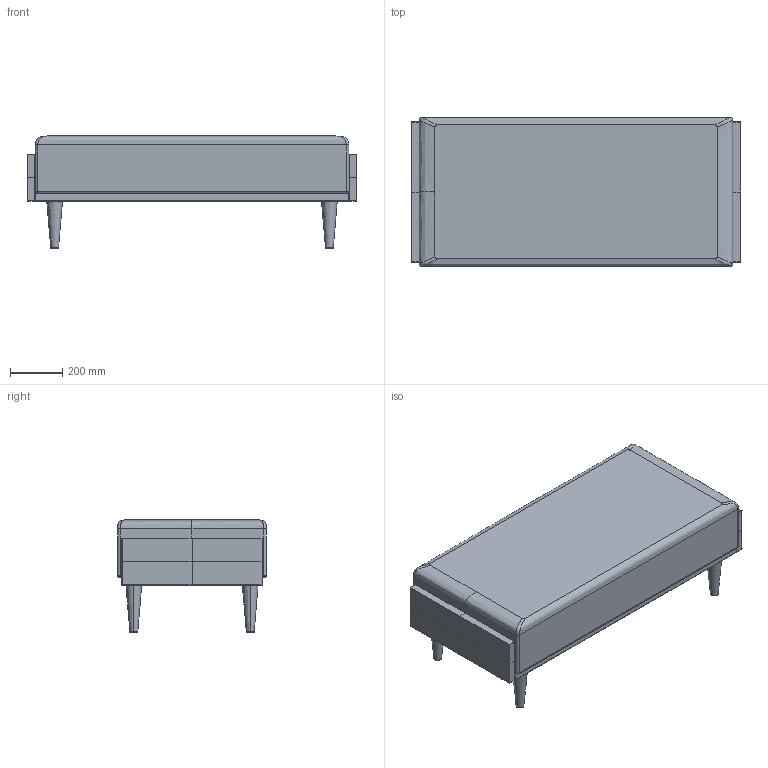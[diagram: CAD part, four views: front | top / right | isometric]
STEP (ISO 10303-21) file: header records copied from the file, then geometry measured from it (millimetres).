
FILE_DESCRIPTION(/* description */ (''),/* implementation_level */ '2;1');
FILE_NAME(/* name */ 'KINOSH~1',/* time_stamp */ '2020-06-03T14:05:49+09:00',/* author */ (''),/* organization */ (''),/* preprocessor_version */ 'ST-DEVELOPER v15',/* originating_system */ '',/* authorisation */ '');
FILE_SCHEMA (('AUTOMOTIVE_DESIGN'));
Length unit declared in the file: millimetre
Products named in the file (1): Document
Bounding box: 1260 x 570 x 430 mm (x, y, z)
Volume: 176172264.9 mm3; surface area: 4048164.9 mm2
Topology: 4 solids, 5 shells, 164 faces, 333 edges, 182 vertices
Faces by surface type: bspline 135, plane 29
Entity records: 6437 total; most frequent: CARTESIAN_POINT 4545, ORIENTED_EDGE 666, EDGE_CURVE 335, VERTEX_POINT 184, EDGE_LOOP 168, ADVANCED_FACE 164, FACE_OUTER_BOUND 164, B_SPLINE_CURVE_WITH_KNOTS 78
